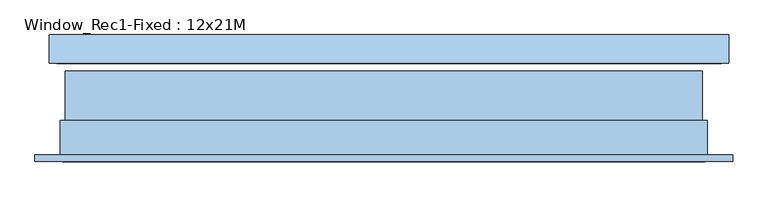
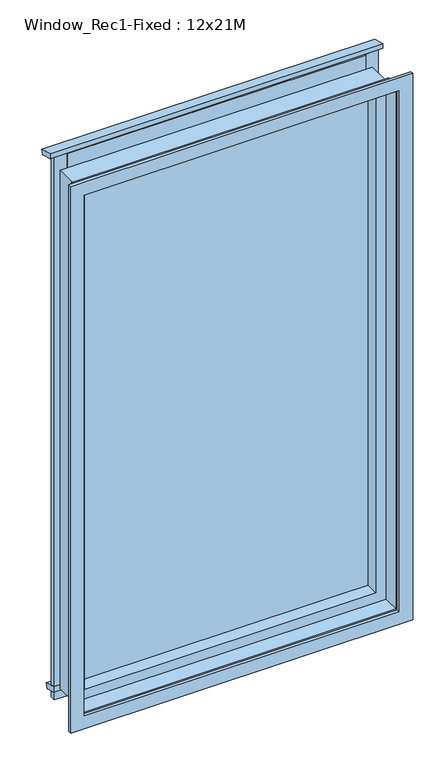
"""IFC4 building model written with IfcOpenShell, lengths in millimetres: window geometry, Window_Rec1-Fixed : 12x21M."""

from ifc_helpers import new_model, si_unit, frame, origin, place, context, project, spatial, polyline, outline, extrude, source, transform, mapped, element, save


def window_rec1_fixed_12x21m_d7c7a777(model_context):
    return source(origin(), model_context, "Body", "SweptSolid", [
        extrude(outline(polyline([(148.0508419, 3194.3065207), (143.1332801, 3175.95393), (94.8369888, 3188.8948822), (94.8369888, 3208.5651297), (148.0508419, 3194.3065207)])), frame((-530.0, 0.0, 0.0), z_axis=(1.0, 0.0, 0.0), x_axis=(0.0, 1.0, 0.0)), (0.0, 0.0, 1.0), 1270.0),
        extrude(outline(polyline([(143.1332801, 1040.6791642), (137.4392611, 1019.4287961), (94.8369888, 1030.8440405), (94.8369888, 1053.6201165), (143.1332801, 1040.6791642)])), frame((-516.0, 0.0, 0.0), z_axis=(1.0, 0.0, 0.0), x_axis=(0.0, 1.0, 0.0)), (0.0, 0.0, 1.0), 1242.0),
        extrude(outline(polyline([(-465.0, 94.8369888), (-465.0, 116.8369888), (675.0, 116.8369888), (675.0, 94.8369888), (-465.0, 94.8369888)])), frame((0.0, 0.0, 1005.0051732), z_axis=(0.0, 0.0, 1.0), x_axis=(1.0, 0.0, 0.0)), (0.0, 0.0, 1.0), 20.0),
        extrude(outline(polyline([(-465.0, 94.8369888), (-465.0, 116.8369888), (675.0, 116.8369888), (675.0, 94.8369888), (-465.0, 94.8369888)])), frame((0.0, 0.0, 3125.0), z_axis=(0.0, 0.0, 1.0), x_axis=(1.0, 0.0, 0.0)), (0.0, 0.0, 1.0), 60.0),
        extrude(outline(polyline([(723.0, 94.8369888), (675.0, 94.8369888), (675.0, 116.8369888), (723.0, 116.8369888), (723.0, 94.8369888)])), frame((0.0, 0.0, 1000.0), z_axis=(0.0, 0.0, 1.0), x_axis=(1.0, 0.0, 0.0)), (0.0, 0.0, 1.0), 2189.0),
        extrude(outline(polyline([(-465.0, 94.8369888), (-513.0, 94.8369888), (-513.0, 116.8369888), (-465.0, 116.8369888), (-465.0, 94.8369888)])), frame((0.0, 0.0, 1000.0), z_axis=(0.0, 0.0, 1.0), x_axis=(1.0, 0.0, 0.0)), (0.0, 0.0, 1.0), 2189.1537013),
        extrude(outline(polyline([(3140.0, 690.0), (3140.0, -500.0), (1050.0, -500.0), (1050.0, 690.0), (3140.0, 690.0)]), holes=[polyline([(1090.0, 650.0), (1090.0, -460.0), (3100.0, -460.0), (3100.0, 650.0), (1090.0, 650.0)])]), frame((0.0, -12.1630112, 0.0), z_axis=(0.0, 1.0, 0.0), x_axis=(0.0, 0.0, 1.0)), (0.0, 0.0, 1.0), 92.0),
        extrude(outline(polyline([(650.0, 37.3369888), (-460.0, 37.3369888), (-460.0, 62.3369888), (650.0, 62.3369888), (650.0, 37.3369888)])), frame((0.0, 0.0, 1090.0), z_axis=(0.0, 0.0, 1.0), x_axis=(1.0, 0.0, 0.0)), (0.0, 0.0, 1.0), 2010.0),
        extrude(outline(polyline([(3150.0, 700.0), (3150.0, -510.0), (1040.0, -510.0), (1040.0, 700.0), (3150.0, 700.0)]), holes=[polyline([(1050.0, -500.0), (3140.0, -500.0), (3140.0, 690.0), (1050.0, 690.0), (1050.0, -500.0)])]), frame((0.0, -77.1630112, 0.0), z_axis=(0.0, 1.0, 0.0), x_axis=(0.0, 0.0, 1.0)), (0.0, 0.0, 1.0), 65.0),
        extrude(outline(polyline([(3197.0, 747.0), (3197.0, -557.0), (993.0, -557.0), (993.0, 747.0), (3197.0, 747.0)]), holes=[polyline([(1045.0, 695.0), (1045.0, -505.0), (3145.0, -505.0), (3145.0, 695.0), (1045.0, 695.0)])]), frame((0.0, -89.1630112, 0.0), z_axis=(0.0, 1.0, 0.0), x_axis=(0.0, 0.0, 1.0)), (0.0, 0.0, 1.0), 12.0),
    ])


if __name__ == "__main__":
    model = new_model("IFC4")
    model_context = context("Model", 3, world=origin())
    ifc_project = project(units=[si_unit("LENGTHUNIT", "METRE", prefix="MILLI")], contexts=[model_context])
    site = spatial("IfcSite", under=ifc_project)
    building = spatial("IfcBuilding", under=site)
    placement = place(None, origin())
    window_rec1_fixed_12x21m_shape = window_rec1_fixed_12x21m_d7c7a777(model_context)
    element("IfcWindow", 1, ObjectType="Window_Rec1-Fixed : 12x21M", at=placement, inside=building, context=model_context, shape_type="MappedRepresentation", body=[
        mapped(window_rec1_fixed_12x21m_shape, transform((0.0, 0.0, 0.0), x_axis=(1.0, 0.0, 0.0), y_axis=(0.0, 1.0, 0.0), z_axis=(0.0, 0.0, 1.0))),
    ])
    save(model, "model.ifc")
